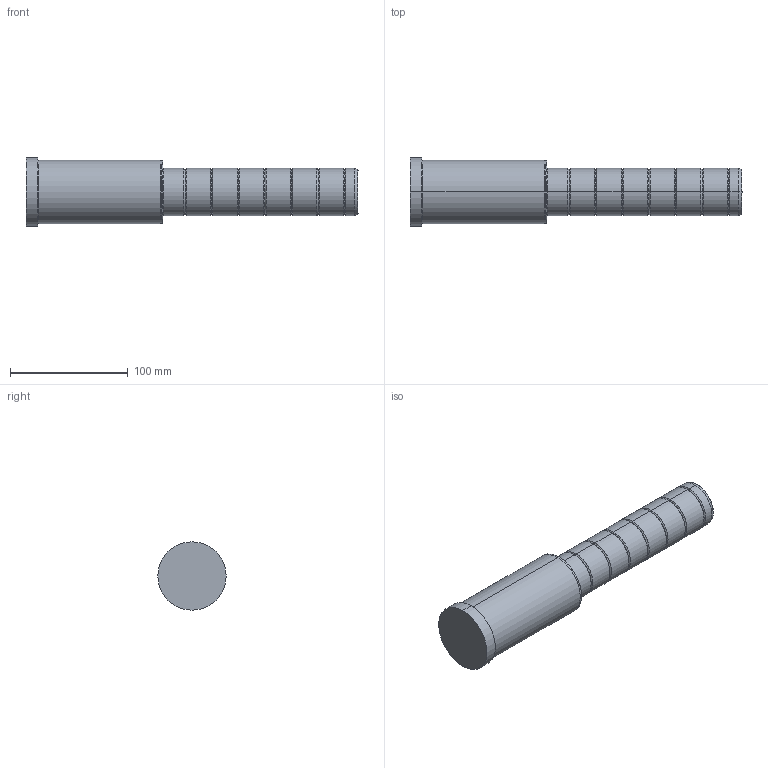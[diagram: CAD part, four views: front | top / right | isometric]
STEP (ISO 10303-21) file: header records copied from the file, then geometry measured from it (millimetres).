
FILE_DESCRIPTION( ( 'STEP AP203' ), '1' );
FILE_NAME( 'C:/Projects/D02 - 40x116x166.step', '2003-01-04T14:07:05', ( ' ' ), ( ' ' ), 'XStep 1.0', ' ', ' ' );
FILE_SCHEMA( ( 'CONFIG_CONTROL_DESIGN' ) );
Length unit declared in the file: metre
Products named in the file (1): 1
Bounding box: 282 x 58 x 58 mm (x, y, z)
Volume: 476431 mm3; surface area: 46677.1 mm2
Topology: 1 solids, 1 shells, 66 faces, 130 edges, 70 vertices
Faces by surface type: bspline 38, revolution 28
Entity records: 2117 total; most frequent: CARTESIAN_POINT 917, ORIENTED_EDGE 260, DIRECTION 198, EDGE_CURVE 130, AXIS2_PLACEMENT_3D 71, EDGE_LOOP 70, VERTEX_POINT 70, CIRCLE 70
